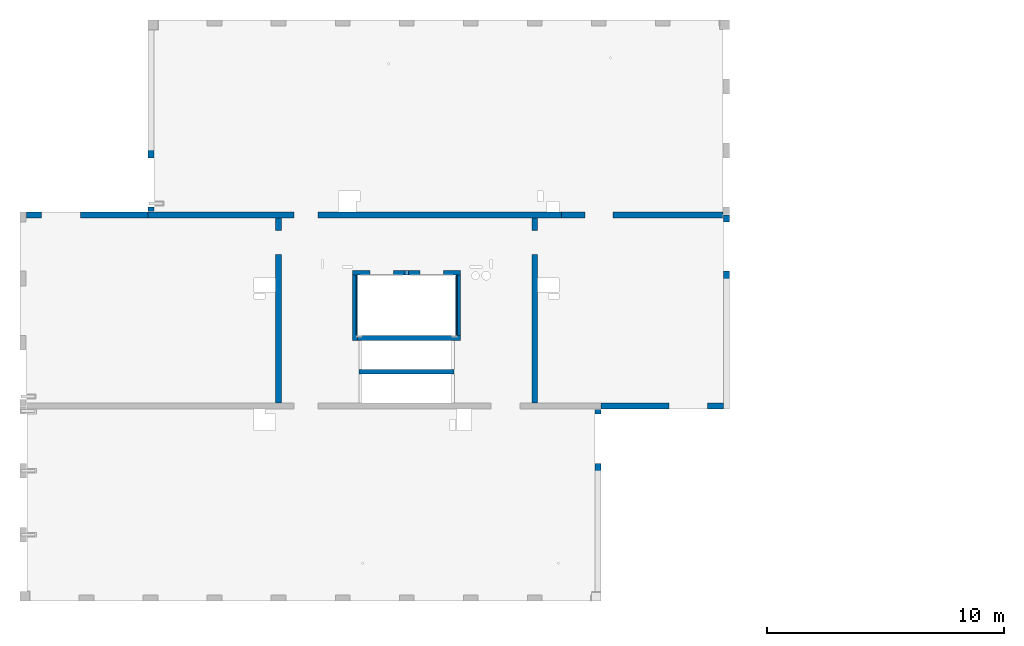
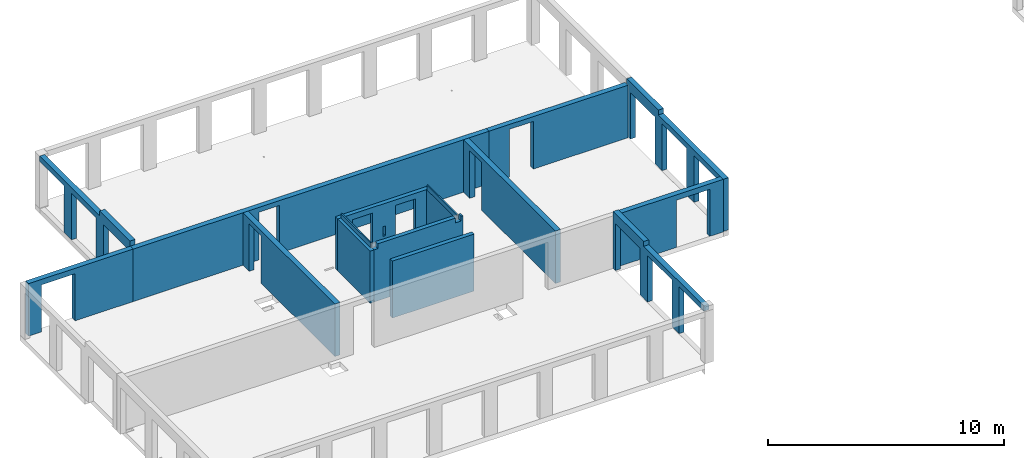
# One storey, part 3 of 11: 16 walls, 23 openings.
"""IFC2X3 building model written with IfcOpenShell, lengths in millimetres."""

from ifc_helpers import new_model, entity, si_unit, converted_unit, derived_unit, direction, frame, frame_2d, origin, origin_2d_with_axis, place, context, subcontext, project, spatial, rectangle, extrude, material, layer, layer_set, layer_usage, type_object, element, save


model = new_model("IFC2X3")

# Units and contexts
model_context = context("Model", 3, precision=0.01, world=origin(), true_north=direction((6.12303176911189e-17, 1.0)))
body_context = subcontext(model_context, "Body", "Model", "MODEL_VIEW")
ifc_project = project(units=[si_unit("LENGTHUNIT", "METRE", prefix="MILLI"), si_unit("AREAUNIT", "SQUARE_METRE"), si_unit("VOLUMEUNIT", "CUBIC_METRE"), converted_unit("PLANEANGLEUNIT", "DEGREE", entity("IfcRatioMeasure", 0.0174532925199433), si_unit("PLANEANGLEUNIT", "RADIAN"), dimensions=[0, 0, 0, 0, 0, 0, 0]), si_unit("MASSUNIT", "GRAM", prefix="KILO"), derived_unit("MASSDENSITYUNIT", [(si_unit("MASSUNIT", "GRAM", prefix="KILO"), 1), (si_unit("LENGTHUNIT", "METRE"), -3)]), si_unit("TIMEUNIT", "SECOND"), si_unit("FREQUENCYUNIT", "HERTZ"), si_unit("THERMODYNAMICTEMPERATUREUNIT", "DEGREE_CELSIUS"), derived_unit("THERMALTRANSMITTANCEUNIT", [(si_unit("MASSUNIT", "GRAM", prefix="KILO"), 1), (si_unit("THERMODYNAMICTEMPERATUREUNIT", "KELVIN"), -1), (si_unit("TIMEUNIT", "SECOND"), -3)]), derived_unit("VOLUMETRICFLOWRATEUNIT", [(si_unit("LENGTHUNIT", "METRE"), 3), (si_unit("TIMEUNIT", "SECOND"), -1)]), si_unit("ELECTRICCURRENTUNIT", "AMPERE"), si_unit("ELECTRICVOLTAGEUNIT", "VOLT"), si_unit("POWERUNIT", "WATT"), si_unit("FORCEUNIT", "NEWTON", prefix="KILO"), si_unit("ILLUMINANCEUNIT", "LUX"), si_unit("LUMINOUSFLUXUNIT", "LUMEN"), si_unit("LUMINOUSINTENSITYUNIT", "CANDELA"), derived_unit("USERDEFINED", [(si_unit("MASSUNIT", "GRAM", prefix="KILO"), -1), (si_unit("LENGTHUNIT", "METRE"), -2), (si_unit("TIMEUNIT", "SECOND"), 3), (si_unit("LUMINOUSFLUXUNIT", "LUMEN"), 1)]), derived_unit("LINEARVELOCITYUNIT", [(si_unit("LENGTHUNIT", "METRE"), 1), (si_unit("TIMEUNIT", "SECOND"), -1)]), si_unit("PRESSUREUNIT", "PASCAL"), derived_unit("USERDEFINED", [(si_unit("LENGTHUNIT", "METRE"), -2), (si_unit("MASSUNIT", "GRAM", prefix="KILO"), 1), (si_unit("TIMEUNIT", "SECOND"), -2)])], contexts=[model_context])

# Site, building, storey
site_placement = place(None, origin())
site = spatial("IfcSite", under=ifc_project, at=site_placement, Name="Default", CompositionType="ELEMENT")
building_placement = place(site_placement, origin())
building = spatial("IfcBuilding", under=site, at=building_placement, Name="niet gebruiken", CompositionType="ELEMENT")
storey_placement = place(building_placement, frame((0.0, 0.0, 54180.0)))
storey = spatial("IfcBuildingStorey", under=building, at=storey_placement, Name="18 achttiende verdieping", CompositionType="ELEMENT", Elevation=54180.0)

# Wall, opening
ifc_material_1 = material(Name="NLRS_f2_beton ihwg")
ifc_layer_1 = layer(ifc_material_1, 250.0)
ifc_layer_set_1 = layer_set([ifc_layer_1], Name="Basic Wall:NLRS_22.21_WA_beton ihwg d=250_gen")
ifc_layer_usage_1 = layer_usage(ifc_layer_set_1, "AXIS2", "NEGATIVE", 125.0)
wall_type_1 = type_object("IfcWallType", Name="Basic Wall:NLRS_22.21_WA_beton ihwg d=250_gen", PredefinedType="STANDARD", material=ifc_layer_set_1)
wall_1_placement = place(storey_placement, frame((27170.0, 45031.0, -90.0)))
wall_1 = element("IfcWallStandardCase", 1, at=wall_1_placement, inside=storey, type_object=wall_type_1, material=ifc_layer_usage_1, Name="Basic Wall:NLRS_22.21_WA_beton ihwg d=250_gen", ObjectType="Basic Wall:NLRS_22.21_WA_beton ihwg d=250_gen", context=body_context, shape_type="SweptSolid", body=[
    extrude(rectangle(XDim=5130.0, YDim=249.999999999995, at=frame_2d((2565.0, 0.0), x_axis=(-1.0, 0.0))), origin(), (0.0, 0.0, 1.0), 2719.99999999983),
])
opening_1_placement = place(wall_1_placement, origin())
element("IfcOpeningElement", 2, at=opening_1_placement, cuts=wall_1, Name="Basic Wall:NLRS_22.21_WA_beton ihwg d=250_gen", ObjectType="Opening", context=body_context, shape_type="SweptSolid", body=[
    extrude(rectangle(XDim=2440.0, YDim=1640.0, at=origin_2d_with_axis()), frame((1460.0, -1649.0, 1220.0), z_axis=(0.0, 1.0, 0.0), x_axis=(0.0, 0.0, 1.0)), (0.0, 0.0, 1.0), 3048.0),
])

ifc_layer_usage_2 = layer_usage(ifc_layer_set_1, "AXIS2", "NEGATIVE", 125.0)
wall_2_placement = place(storey_placement, frame((37800.0, 44906.0, -90.0), z_axis=(0.0, 0.0, 1.0), x_axis=(0.0, -1.0, 0.0)))
wall_2 = element("IfcWallStandardCase", 3, at=wall_2_placement, inside=storey, type_object=wall_type_1, material=ifc_layer_usage_2, Name="Basic Wall:NLRS_22.21_WA_beton ihwg d=250_gen", ObjectType="Basic Wall:NLRS_22.21_WA_beton ihwg d=250_gen", context=body_context, shape_type="SweptSolid", body=[
    extrude(rectangle(XDim=7799.99999999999, YDim=250.000000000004, at=frame_2d((3900.0, 0.0), x_axis=(-1.0, 0.0))), origin(), (0.0, 0.0, 1.0), 2719.99999999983),
])
opening_2_placement = place(wall_2_placement, origin())
element("IfcOpeningElement", 4, at=opening_2_placement, cuts=wall_2, Name="Basic Wall:NLRS_22.21_WA_beton ihwg d=250_gen", ObjectType="Opening", context=body_context, shape_type="SweptSolid", body=[
    extrude(rectangle(XDim=2470.0, YDim=1006.0, at=frame_2d((-4.43378667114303e-12, 0.0), x_axis=(1.0, 0.0))), frame((1027.0, -1649.0, 1235.0), z_axis=(0.0, 1.0, 0.0), x_axis=(0.0, 0.0, 1.0)), (0.0, 0.0, 1.0), 3048.0),
])

ifc_layer_usage_3 = layer_usage(ifc_layer_set_1, "AXIS2", "NEGATIVE", 125.0)
wall_3_placement = place(storey_placement, frame((48600.0, 44906.0, -90.0), z_axis=(0.0, 0.0, 1.0), x_axis=(0.0, -1.0, 0.0)))
wall_3 = element("IfcWallStandardCase", 5, at=wall_3_placement, inside=storey, type_object=wall_type_1, material=ifc_layer_usage_3, Name="Basic Wall:NLRS_22.21_WA_beton ihwg d=250_gen", ObjectType="Basic Wall:NLRS_22.21_WA_beton ihwg d=250_gen", context=body_context, shape_type="SweptSolid", body=[
    extrude(rectangle(XDim=7799.99999999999, YDim=249.999999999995, at=frame_2d((3900.0, 0.0), x_axis=(-1.0, 0.0))), origin(), (0.0, 0.0, 1.0), 2719.99999999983),
])
opening_3_placement = place(wall_3_placement, origin())
element("IfcOpeningElement", 6, at=opening_3_placement, cuts=wall_3, Name="Basic Wall:NLRS_22.21_WA_beton ihwg d=250_gen", ObjectType="Opening", context=body_context, shape_type="SweptSolid", body=[
    extrude(rectangle(XDim=2470.0, YDim=1006.0, at=frame_2d((-4.43378667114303e-12, 0.0), x_axis=(1.0, 0.0))), frame((1027.0, -1649.0, 1235.0), z_axis=(0.0, 1.0, 0.0), x_axis=(0.0, 0.0, 1.0)), (0.0, 0.0, 1.0), 3048.0),
])

ifc_layer_usage_4 = layer_usage(ifc_layer_set_1, "AXIS2", "NEGATIVE", 125.0)
wall_4_placement = place(storey_placement, frame((32300.0, 45031.0, -90.0)))
wall_4 = element("IfcWallStandardCase", 7, at=wall_4_placement, inside=storey, type_object=wall_type_1, material=ifc_layer_usage_4, Name="Basic Wall:NLRS_22.21_WA_beton ihwg d=250_gen", ObjectType="Basic Wall:NLRS_22.21_WA_beton ihwg d=250_gen", context=body_context, shape_type="SweptSolid", body=[
    extrude(rectangle(XDim=17425.0, YDim=249.999999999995, at=frame_2d((8712.50000000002, 0.0), x_axis=(-1.0, 0.0))), origin(), (0.0, 0.0, 1.0), 2719.99999999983),
])
opening_4_placement = place(wall_4_placement, origin())
element("IfcOpeningElement", 8, at=opening_4_placement, cuts=wall_4, Name="Basic Wall:NLRS_22.21_WA_beton ihwg d=250_gen", ObjectType="Opening", context=body_context, shape_type="SweptSolid", body=[
    extrude(rectangle(XDim=2470.0, YDim=1006.0, at=frame_2d((4.43378667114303e-12, 2.1600499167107e-12), x_axis=(1.0, 0.0))), frame((6652.0, -1649.0, 1235.0), z_axis=(0.0, 1.0, 0.0), x_axis=(0.0, 0.0, 1.0)), (0.0, 0.0, 1.0), 3048.0),
])

ifc_layer_usage_5 = layer_usage(ifc_layer_set_1, "AXIS2", "NEGATIVE", 125.0)
wall_5_placement = place(storey_placement, frame((51400.0, 36981.0, -90.0)))
wall_5 = element("IfcWallStandardCase", 9, at=wall_5_placement, inside=storey, type_object=wall_type_1, material=ifc_layer_usage_5, Name="Basic Wall:NLRS_22.21_WA_beton ihwg d=250_gen", ObjectType="Basic Wall:NLRS_22.21_WA_beton ihwg d=250_gen", context=body_context, shape_type="SweptSolid", body=[
    extrude(rectangle(XDim=5150.0, YDim=250.000000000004, at=frame_2d((2575.0, 0.0), x_axis=(-1.0, 0.0))), origin(), (0.0, 0.0, 1.0), 2719.99999999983),
])
opening_5_placement = place(wall_5_placement, origin())
element("IfcOpeningElement", 10, at=opening_5_placement, cuts=wall_5, Name="Basic Wall:NLRS_22.21_WA_beton ihwg d=250_gen", ObjectType="Opening", context=body_context, shape_type="SweptSolid", body=[
    extrude(rectangle(XDim=2440.0, YDim=1640.0, at=frame_2d((4.37694325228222e-12, 0.0), x_axis=(0.0, 1.0))), frame((3670.0, -1399.0, 1220.0), z_axis=(0.0, 1.0, 0.0), x_axis=(-1.0, 0.0, 0.0)), (0.0, 0.0, 1.0), 3048.0),
])

ifc_layer_usage_6 = layer_usage(ifc_layer_set_1, "AXIS2", "NEGATIVE", 125.0)
wall_6_placement = place(storey_placement, frame((49725.0, 45031.0, -90.0)))
wall_6 = element("IfcWallStandardCase", 11, at=wall_6_placement, inside=storey, type_object=wall_type_1, material=ifc_layer_usage_6, Name="Basic Wall:NLRS_22.21_WA_beton ihwg d=250_gen", ObjectType="Basic Wall:NLRS_22.21_WA_beton ihwg d=250_gen", context=body_context, shape_type="SweptSolid", body=[
    extrude(rectangle(XDim=6805.0, YDim=249.999999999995, at=frame_2d((3402.5, 0.0), x_axis=(-1.0, 0.0))), origin(), (0.0, 0.0, 1.0), 2719.99999999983),
])
opening_6_placement = place(wall_6_placement, origin())
element("IfcOpeningElement", 12, at=opening_6_placement, cuts=wall_6, Name="Basic Wall:NLRS_22.21_WA_beton ihwg d=250_gen", ObjectType="Opening", context=body_context, shape_type="SweptSolid", body=[
    extrude(rectangle(XDim=2470.0, YDim=1170.0, at=frame_2d((-4.43378667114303e-12, 4.32009983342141e-12), x_axis=(1.0, 0.0))), frame((1585.0, -1649.0, 1235.0), z_axis=(0.0, 1.0, 0.0), x_axis=(0.0, 0.0, 1.0)), (0.0, 0.0, 1.0), 3048.0),
])

# Wall, openings
ifc_material_2 = material(Name="NLRS_f2_beton prefab")
ifc_layer_2 = layer(ifc_material_2, 250.0)
ifc_layer_set_2 = layer_set([ifc_layer_2], Name="Basic Wall:NLRS_21.21_WA_beton prefab d=250_gen")
ifc_layer_usage_7 = layer_usage(ifc_layer_set_2, "AXIS2", "NEGATIVE", 125.0)
wall_type_2 = type_object("IfcWallType", Name="Basic Wall:NLRS_21.21_WA_beton prefab d=250_gen", PredefinedType="STANDARD", material=ifc_layer_set_2)
wall_7_placement = place(storey_placement, frame((32425.0, 52846.0, -70.0), z_axis=(0.0, 0.0, 1.0), x_axis=(0.0, -1.0, 0.0)))
wall_7 = element("IfcWallStandardCase", 13, at=wall_7_placement, inside=storey, type_object=wall_type_2, material=ifc_layer_usage_7, Name="Basic Wall:NLRS_21.21_WA_beton prefab d=250_gen", ObjectType="Basic Wall:NLRS_21.21_WA_beton prefab d=250_gen", context=body_context, shape_type="SweptSolid", body=[
    extrude(rectangle(XDim=7670.00000000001, YDim=250.000000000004, at=frame_2d((3835.0, 0.0), x_axis=(-1.0, 0.0))), origin(), (0.0, 0.0, 1.0), 2949.99999999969),
])
opening_7_placement = place(wall_7_placement, origin())
element("IfcOpeningElement", 14, at=opening_7_placement, cuts=wall_7, Name="Basic Wall:NLRS_21.21_WA_beton prefab d=250_gen", ObjectType="Opening", context=body_context, shape_type="SweptSolid", body=[
    extrude(rectangle(XDim=2420.0, YDim=2080.0, at=frame_2d((0.0, 0.0), x_axis=(0.0, 1.0))), frame((1040.0, -1399.0, 1210.0), z_axis=(0.0, 1.0, 0.0), x_axis=(-1.0, 0.0, 0.0)), (0.0, 0.0, 1.0), 3048.0),
])
opening_8_placement = place(wall_7_placement, origin())
element("IfcOpeningElement", 15, at=opening_8_placement, cuts=wall_7, Name="Basic Wall:NLRS_21.21_WA_beton prefab d=250_gen", ObjectType="Opening", context=body_context, shape_type="SweptSolid", body=[
    extrude(rectangle(XDim=2420.0, YDim=2080.0, at=frame_2d((0.0, 0.0), x_axis=(0.0, 1.0))), frame((3740.0, -1399.0, 1210.0), z_axis=(0.0, 1.0, 0.0), x_axis=(-1.0, 0.0, 0.0)), (0.0, 0.0, 1.0), 3048.0),
])
opening_9_placement = place(wall_7_placement, origin())
element("IfcOpeningElement", 16, at=opening_9_placement, cuts=wall_7, Name="Basic Wall:NLRS_21.21_WA_beton prefab d=250_gen", ObjectType="Opening", context=body_context, shape_type="SweptSolid", body=[
    extrude(rectangle(XDim=2420.0, YDim=2080.0, at=frame_2d((0.0, 0.0), x_axis=(0.0, 1.0))), frame((6440.0, -1399.0, 1210.0), z_axis=(0.0, 1.0, 0.0), x_axis=(-1.0, 0.0, 0.0)), (0.0, 0.0, 1.0), 3048.0),
])
opening_10_placement = place(wall_7_placement, origin())
element("IfcOpeningElement", 17, at=opening_10_placement, cuts=wall_7, Name="Basic Wall:NLRS_21.21_WA_beton prefab d=250_gen", ObjectType="Opening", context=body_context, shape_type="SweptSolid", body=[
    extrude(rectangle(XDim=249.999999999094, YDim=5089.99999999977, at=frame_2d((4.32009983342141e-12, 0.0), x_axis=(0.0, 1.0))), frame((2545.0, 125.0, 2825.0), z_axis=(0.0, -1.0, 0.0), x_axis=(-1.0, 0.0, 0.0)), (0.0, 0.0, 1.0), 250.0),
])

ifc_layer_usage_8 = layer_usage(ifc_layer_set_2, "AXIS2", "NEGATIVE", 125.0)
wall_8_placement = place(storey_placement, frame((56675.0, 45046.0, -70.0), z_axis=(0.0, 0.0, 1.0), x_axis=(0.0, -1.0, 0.0)))
wall_8 = element("IfcWallStandardCase", 18, at=wall_8_placement, inside=storey, type_object=wall_type_2, material=ifc_layer_usage_8, Name="Basic Wall:NLRS_21.21_WA_beton prefab d=250_gen", ObjectType="Basic Wall:NLRS_21.21_WA_beton prefab d=250_gen", context=body_context, shape_type="SweptSolid", body=[
    extrude(rectangle(XDim=8189.99999999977, YDim=249.999999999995, at=frame_2d((4094.99999999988, 0.0), x_axis=(-1.0, 0.0))), origin(), (0.0, 0.0, 1.0), 2949.99999999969),
])
opening_11_placement = place(wall_8_placement, origin())
element("IfcOpeningElement", 19, at=opening_11_placement, cuts=wall_8, Name="Basic Wall:NLRS_21.21_WA_beton prefab d=250_gen", ObjectType="Opening", context=body_context, shape_type="SweptSolid", body=[
    extrude(rectangle(XDim=2420.0, YDim=2080.0, at=frame_2d((0.0, 0.0), x_axis=(0.0, 1.0))), frame((1340.0, -1399.0, 1210.0), z_axis=(0.0, 1.0, 0.0), x_axis=(-1.0, 0.0, 0.0)), (0.0, 0.0, 1.0), 3048.0),
])
opening_12_placement = place(wall_8_placement, origin())
element("IfcOpeningElement", 20, at=opening_12_placement, cuts=wall_8, Name="Basic Wall:NLRS_21.21_WA_beton prefab d=250_gen", ObjectType="Opening", context=body_context, shape_type="SweptSolid", body=[
    extrude(rectangle(XDim=2420.0, YDim=2080.0, at=frame_2d((0.0, 0.0), x_axis=(0.0, 1.0))), frame((4040.0, -1399.0, 1210.0), z_axis=(0.0, 1.0, 0.0), x_axis=(-1.0, 0.0, 0.0)), (0.0, 0.0, 1.0), 3048.0),
])
opening_13_placement = place(wall_8_placement, origin())
element("IfcOpeningElement", 21, at=opening_13_placement, cuts=wall_8, Name="Basic Wall:NLRS_21.21_WA_beton prefab d=250_gen", ObjectType="Opening", context=body_context, shape_type="SweptSolid", body=[
    extrude(rectangle(XDim=2420.0, YDim=2080.0, at=frame_2d((0.0, 0.0), x_axis=(0.0, 1.0))), frame((6740.0, -1399.0, 1210.0), z_axis=(0.0, 1.0, 0.0), x_axis=(-1.0, 0.0, 0.0)), (0.0, 0.0, 1.0), 3048.0),
])
opening_14_placement = place(wall_8_placement, origin())
element("IfcOpeningElement", 22, at=opening_14_placement, cuts=wall_8, Name="Basic Wall:NLRS_21.21_WA_beton prefab d=250_gen", ObjectType="Opening", context=body_context, shape_type="SweptSolid", body=[
    extrude(rectangle(XDim=250.000000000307, YDim=5500.0000000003, at=frame_2d((0.0, -4.32009983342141e-12), x_axis=(1.0, 0.0))), frame((5440.0, 125.0, 2825.0), z_axis=(0.0, -1.0, 0.0), x_axis=(0.0, 0.0, 1.0)), (0.0, 0.0, 1.0), 250.0),
])

ifc_layer_usage_9 = layer_usage(ifc_layer_set_2, "AXIS2", "NEGATIVE", 125.0)
wall_9_placement = place(storey_placement, frame((51275.0, 29166.0, -70.0), z_axis=(0.0, 0.0, 1.0), x_axis=(0.0, 1.0, 0.0)))
wall_9 = element("IfcWallStandardCase", 23, at=wall_9_placement, inside=storey, type_object=wall_type_2, material=ifc_layer_usage_9, Name="Basic Wall:NLRS_21.21_WA_beton prefab d=250_gen", ObjectType="Basic Wall:NLRS_21.21_WA_beton prefab d=250_gen", context=body_context, shape_type="SweptSolid", body=[
    extrude(rectangle(XDim=7669.99999999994, YDim=249.999999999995, at=frame_2d((3834.99999999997, 0.0), x_axis=(-1.0, 0.0))), origin(), (0.0, 0.0, 1.0), 2949.99999999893),
])
opening_15_placement = place(wall_9_placement, origin())
element("IfcOpeningElement", 24, at=opening_15_placement, cuts=wall_9, Name="Basic Wall:NLRS_21.21_WA_beton prefab d=250_gen", ObjectType="Opening", context=body_context, shape_type="SweptSolid", body=[
    extrude(rectangle(XDim=2420.0, YDim=2080.0, at=frame_2d((2.1600499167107e-12, 0.0), x_axis=(0.0, 1.0))), frame((1040.0, -1399.0, 1210.0), z_axis=(0.0, 1.0, 0.0), x_axis=(-1.0, 0.0, 0.0)), (0.0, 0.0, 1.0), 3048.0),
])
opening_16_placement = place(wall_9_placement, origin())
element("IfcOpeningElement", 25, at=opening_16_placement, cuts=wall_9, Name="Basic Wall:NLRS_21.21_WA_beton prefab d=250_gen", ObjectType="Opening", context=body_context, shape_type="SweptSolid", body=[
    extrude(rectangle(XDim=2420.0, YDim=2080.0, at=frame_2d((2.1600499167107e-12, 0.0), x_axis=(0.0, 1.0))), frame((6440.0, -1399.0, 1210.0), z_axis=(0.0, 1.0, 0.0), x_axis=(-1.0, 0.0, 0.0)), (0.0, 0.0, 1.0), 3048.0),
])
opening_17_placement = place(wall_9_placement, origin())
element("IfcOpeningElement", 26, at=opening_17_placement, cuts=wall_9, Name="Basic Wall:NLRS_21.21_WA_beton prefab d=250_gen", ObjectType="Opening", context=body_context, shape_type="SweptSolid", body=[
    extrude(rectangle(XDim=2420.0, YDim=2080.0, at=frame_2d((2.1600499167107e-12, 0.0), x_axis=(0.0, 1.0))), frame((3740.0, -1399.0, 1210.0), z_axis=(0.0, 1.0, 0.0), x_axis=(-1.0, 0.0, 0.0)), (0.0, 0.0, 1.0), 3048.0),
])
opening_18_placement = place(wall_9_placement, origin())
element("IfcOpeningElement", 27, at=opening_18_placement, cuts=wall_9, Name="Basic Wall:NLRS_21.21_WA_beton prefab d=250_gen", ObjectType="Opening", context=body_context, shape_type="SweptSolid", body=[
    extrude(rectangle(XDim=249.999999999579, YDim=5090.00000000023, at=frame_2d((0.0, 0.0), x_axis=(0.0, 1.0))), frame((2545.0, 125.0, 2825.0), z_axis=(0.0, -1.0, 0.0), x_axis=(-1.0, 0.0, 0.0)), (0.0, 0.0, 1.0), 250.0),
])

# Wall
ifc_layer_3 = layer(ifc_material_2, 200.0)
ifc_layer_set_3 = layer_set([ifc_layer_3], Name="Basic Wall:NLRS_21.21_WA_beton prefab d=200_gen")
ifc_layer_usage_10 = layer_usage(ifc_layer_set_3, "AXIS2", "NEGATIVE", 100.0)
wall_type_3 = type_object("IfcWallType", Name="Basic Wall:NLRS_21.21_WA_beton prefab d=200_gen", PredefinedType="STANDARD", material=ifc_layer_set_3)
wall_10_placement = place(storey_placement, frame((41200.0, 38426.0, -70.0)))
element("IfcWallStandardCase", 28, at=wall_10_placement, inside=storey, type_object=wall_type_3, material=ifc_layer_usage_10, Name="Basic Wall:NLRS_21.21_WA_beton prefab d=200_gen", ObjectType="Basic Wall:NLRS_21.21_WA_beton prefab d=200_gen", context=body_context, shape_type="SweptSolid", body=[
    extrude(rectangle(XDim=3999.99999999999, YDim=199.999999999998, at=frame_2d((2000.0, 0.0), x_axis=(-1.0, 0.0))), origin(), (0.0, 0.0, 1.0), 2950.00000000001),
])

# Wall, openings
ifc_layer_4 = layer(ifc_material_2, 200.0)
ifc_layer_set_4 = layer_set([ifc_layer_4], Name="Basic Wall:NLRS_22.21_WA_beton prefab d=200_gen")
ifc_layer_usage_11 = layer_usage(ifc_layer_set_4, "AXIS2", "NEGATIVE", 100.0)
wall_type_4 = type_object("IfcWallType", Name="Basic Wall:NLRS_22.21_WA_beton prefab d=200_gen", PredefinedType="STANDARD", material=ifc_layer_set_4)
wall_11_placement = place(storey_placement, frame((40925.0, 42596.0, -70.0)))
wall_11 = element("IfcWallStandardCase", 29, at=wall_11_placement, inside=storey, type_object=wall_type_4, material=ifc_layer_usage_11, Name="Basic Wall:NLRS_22.21_WA_beton prefab d=200_gen", ObjectType="Basic Wall:NLRS_22.21_WA_beton prefab d=200_gen", context=body_context, shape_type="SweptSolid", body=[
    extrude(rectangle(XDim=4549.99999999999, YDim=200.000000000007, at=frame_2d((2274.99999999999, 7.8159700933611e-13), x_axis=(-1.0, 0.0))), origin(), (0.0, 0.0, 1.0), 2699.99999999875),
])
opening_19_placement = place(wall_11_placement, origin())
element("IfcOpeningElement", 30, at=opening_19_placement, cuts=wall_11, Name="Basic Wall:NLRS_22.21_WA_beton prefab d=200_gen", ObjectType="Opening", context=body_context, shape_type="SweptSolid", body=[
    extrude(rectangle(XDim=2430.0, YDim=980.000000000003, at=origin_2d_with_axis()), frame((1219.99984910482, -1624.0, 1195.0), z_axis=(0.0, 1.0, 0.0), x_axis=(0.0, 0.0, 1.0)), (0.0, 0.0, 1.0), 3048.0),
])
opening_20_placement = place(wall_11_placement, origin())
element("IfcOpeningElement", 31, at=opening_20_placement, cuts=wall_11, Name="Basic Wall:NLRS_22.21_WA_beton prefab d=200_gen", ObjectType="Opening", context=body_context, shape_type="SweptSolid", body=[
    extrude(rectangle(XDim=2430.0, YDim=980.000000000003, at=origin_2d_with_axis()), frame((3329.99984910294, -1624.0, 1195.0), z_axis=(0.0, 1.0, 0.0), x_axis=(0.0, 0.0, 1.0)), (0.0, 0.0, 1.0), 3048.0),
])
opening_21_placement = place(wall_11_placement, origin())
element("IfcOpeningElement", 32, at=opening_21_placement, cuts=wall_11, Name="Basic Wall:NLRS_22.21_WA_beton prefab d=200_gen", ObjectType="Opening", context=body_context, shape_type="SweptSolid", body=[
    extrude(rectangle(XDim=505.000000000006, YDim=135.000000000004, at=frame_2d((-4.33431068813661e-12, 0.0), x_axis=(1.0, 0.0))), frame((2275.0, -1624.0, 1272.49999999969), z_axis=(0.0, 1.0, 0.0), x_axis=(0.0, 0.0, 1.0)), (0.0, 0.0, 1.0), 3048.0),
])

# Wall
ifc_layer_usage_12 = layer_usage(ifc_layer_set_4, "AXIS2", "NEGATIVE", 100.0)
wall_12_placement = place(storey_placement, frame((41025.0, 42496.0, -70.0), z_axis=(0.0, 0.0, 1.0), x_axis=(0.0, -1.0, 0.0)))
element("IfcWallStandardCase", 33, at=wall_12_placement, inside=storey, type_object=wall_type_4, material=ifc_layer_usage_12, Name="Basic Wall:NLRS_22.21_WA_beton prefab d=200_gen", ObjectType="Basic Wall:NLRS_22.21_WA_beton prefab d=200_gen", context=body_context, shape_type="SweptSolid", body=[
    extrude(rectangle(XDim=2749.99999999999, YDim=200.000000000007, at=frame_2d((1375.0, 0.0), x_axis=(-1.0, 0.0))), origin(), (0.0, 0.0, 1.0), 2700.00000000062),
])

# Wall, openings
ifc_layer_usage_13 = layer_usage(ifc_layer_set_4, "AXIS2", "NEGATIVE", 100.0)
wall_13_placement = place(storey_placement, frame((45475.0, 39846.0, -70.0), z_axis=(0.0, 0.0, 1.0), x_axis=(-1.0, 0.0, 0.0)))
wall_13 = element("IfcWallStandardCase", 34, at=wall_13_placement, inside=storey, type_object=wall_type_4, material=ifc_layer_usage_13, Name="Basic Wall:NLRS_22.21_WA_beton prefab d=200_gen", ObjectType="Basic Wall:NLRS_22.21_WA_beton prefab d=200_gen", context=body_context, shape_type="SweptSolid", body=[
    extrude(rectangle(XDim=4349.99999999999, YDim=200.000000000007, at=frame_2d((2174.99999999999, 0.0), x_axis=(-1.0, 0.0))), origin(), (0.0, 0.0, 1.0), 2950.00000000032),
])
opening_22_placement = place(wall_13_placement, origin())
element("IfcOpeningElement", 35, at=opening_22_placement, cuts=wall_13, Name="Basic Wall:NLRS_22.21_WA_beton prefab d=200_gen", ObjectType="Opening", context=body_context, shape_type="SweptSolid", body=[
    extrude(rectangle(XDim=250.000000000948, YDim=274.999999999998, at=frame_2d((0.0, -4.32009983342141e-12), x_axis=(1.0, 0.0))), frame((4312.49999999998, 100.0, 2825.0), z_axis=(0.0, -1.0, 0.0), x_axis=(0.0, 0.0, 1.0)), (0.0, 0.0, 1.0), 200.0),
])
opening_23_placement = place(wall_13_placement, origin())
element("IfcOpeningElement", 36, at=opening_23_placement, cuts=wall_13, Name="Basic Wall:NLRS_22.21_WA_beton prefab d=200_gen", ObjectType="Opening", context=body_context, shape_type="SweptSolid", body=[
    extrude(rectangle(XDim=250.000000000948, YDim=275.000216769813, at=frame_2d((-4.32009983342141e-12, 0.0), x_axis=(0.0, 1.0))), frame((237.50010838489, 100.0, 2825.0), z_axis=(0.0, -1.0, 0.0), x_axis=(-1.0, 0.0, 0.0)), (0.0, 0.0, 1.0), 200.0),
])

# Walls
ifc_layer_usage_14 = layer_usage(ifc_layer_set_4, "AXIS2", "NEGATIVE", 100.0)
wall_14_placement = place(storey_placement, frame((45375.0, 39946.0, -70.0), z_axis=(0.0, 0.0, 1.0), x_axis=(0.0, 1.0, 0.0)))
element("IfcWallStandardCase", 37, at=wall_14_placement, inside=storey, type_object=wall_type_4, material=ifc_layer_usage_14, Name="Basic Wall:NLRS_22.21_WA_beton prefab d=200_gen", ObjectType="Basic Wall:NLRS_22.21_WA_beton prefab d=200_gen", context=body_context, shape_type="SweptSolid", body=[
    extrude(rectangle(XDim=2549.99999999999, YDim=200.000000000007, at=frame_2d((1275.0, 0.0), x_axis=(-1.0, 0.0))), origin(), (0.0, 0.0, 1.0), 2700.00000000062),
])
ifc_layer_5 = layer(ifc_material_2, 60.0)
ifc_layer_set_5 = layer_set([ifc_layer_5], Name="Basic Wall:NLRS_22.21_WA_beton prefab d=60_gen")
ifc_layer_usage_15 = layer_usage(ifc_layer_set_5, "AXIS2", "NEGATIVE", 30.0)
wall_type_5 = type_object("IfcWallType", Name="Basic Wall:NLRS_22.21_WA_beton prefab d=60_gen", PredefinedType="STANDARD", material=ifc_layer_set_5)
wall_15_placement = place(storey_placement, frame((41095.0, 42476.0, 2630.0), z_axis=(0.0, 0.0, 1.0), x_axis=(0.0, -1.0, 0.0)))
element("IfcWallStandardCase", 38, at=wall_15_placement, inside=storey, type_object=wall_type_5, material=ifc_layer_usage_15, Name="Basic Wall:NLRS_22.21_WA_beton prefab d=60_gen", ObjectType="Basic Wall:NLRS_22.21_WA_beton prefab d=60_gen", context=body_context, shape_type="SweptSolid", body=[
    extrude(rectangle(XDim=2510.00000000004, YDim=60.0000000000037, at=frame_2d((1255.00000000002, 0.0), x_axis=(-1.0, 0.0))), origin(), (0.0, 0.0, 1.0), 250.000000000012),
])
ifc_layer_usage_16 = layer_usage(ifc_layer_set_5, "AXIS2", "POSITIVE", -30.0)
wall_16_placement = place(storey_placement, frame((45305.0, 42476.0, 2630.0), z_axis=(0.0, 0.0, 1.0), x_axis=(0.0, -1.0, 0.0)))
element("IfcWallStandardCase", 39, at=wall_16_placement, inside=storey, type_object=wall_type_5, material=ifc_layer_usage_16, Name="Basic Wall:NLRS_22.21_WA_beton prefab d=60_gen", ObjectType="Basic Wall:NLRS_22.21_WA_beton prefab d=60_gen", context=body_context, shape_type="SweptSolid", body=[
    extrude(rectangle(XDim=2510.00000000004, YDim=60.0000000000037, at=frame_2d((1255.00000000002, 0.0), x_axis=(-1.0, 0.0))), origin(), (0.0, 0.0, 1.0), 250.000000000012),
])

save(model, "model.ifc")
